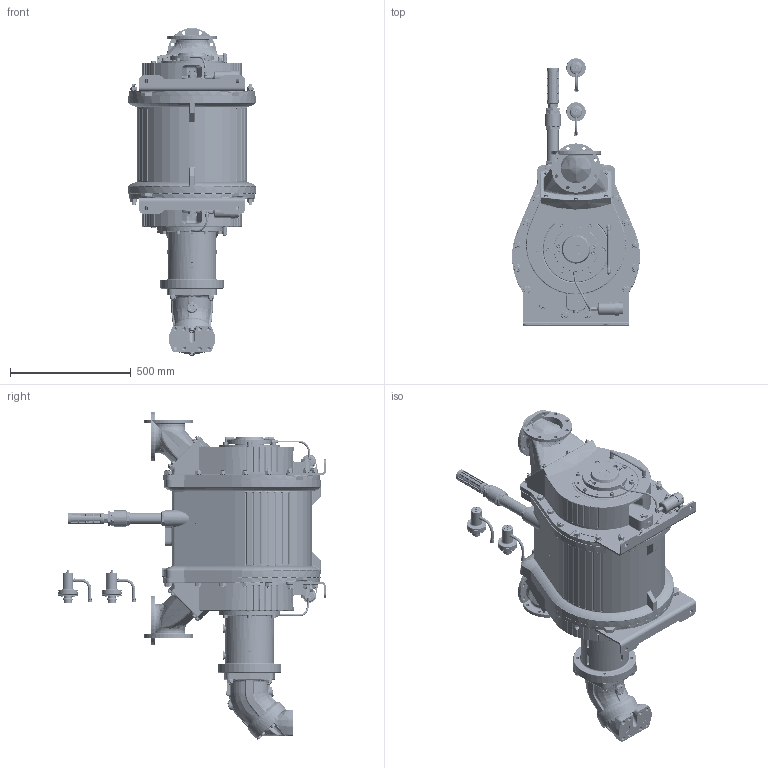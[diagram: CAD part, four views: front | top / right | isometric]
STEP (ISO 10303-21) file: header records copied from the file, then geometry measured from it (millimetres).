
FILE_DESCRIPTION(/* description */ (''),/* implementation_level */ '2;1');
FILE_NAME(/* name */ '1700167.stp',/* time_stamp */ '2026-04-22T12:55:37+02:00',/* author */ ('JJ'),/* organization */ (''),/* preprocessor_version */ 'ST-DEVELOPER v20',/* originating_system */ 'Autodesk Inventor 2025',/* authorisation */ '');
FILE_SCHEMA (('AUTOMOTIVE_DESIGN { 1 0 10303 214 3 1 1 }'));
Products named in the file (69): 1700167; 1659021; 1659049; 910100170; 910200008; 1634823; 1634808; 922000270; 910100021; 910100161; 944600276; 1659046; 1659095; 915000217; 1634773; 915000215; 915000217_1; 915000232; 910300487; 910100191; 915000225; 915000225-part1; 915000225-part2; 944600240; 915000050; 1634824; 1634809; 922000269; 925000587; 925000590; 944600356; 944600355; 1659017; 1659069; 1634666; 1634667; 1634668; 1634130; 1634131; 1634670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
Assembly tree (200 placements, depth 4):
  1700167
    1659017  x4
    1659069  x4
    1659021  x2
    910100021  x34
    910100161  x34
    910100170  x12
    910200008  x12
    1634823  x2
      1634808
      922000270
    1634826  x2
      1634811
      922000266
    1659049  x2
    944600276  x4
    1659046  x2
    1634824  x2
      1634809
      922000269
    1659095
    910300487  x2
    910100191  x2
    944600240  x2
    915000232  x2
    915000225  x2
      915000225-part1
      915000225-part2
    915000217
    1634773  x2
    915000215  x2
    915000217_1
    915000050
    925000587
    925000590
    944600356
    944600355
    1634666  x2
      1634667
      1634668
      1634130
      1634131
      1634670
      1634134
      910200105
      910100125
      910300428
      921000047
      922100045
      922100339
      1634669
      925000651
      910300012
    925000862  x2
    927000134-TM2500  x2
    1659079_Simplify_body
    1636087
      1636088
      922000307
    1659105
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Bounding box: 529.22 x 1107.24 x 1357.57 mm (x, y, z)
Volume: 158594263.6 mm3; surface area: 7045928.4 mm2
Topology: 220 solids, 238 shells, 12529 faces, 32253 edges, 20729 vertices
Faces by surface type: plane 4570, bspline 3546, cylinder 2702, cone 1061, torus 459, sphere 191
Full cylindrical faces by diameter (mm): 1.5 x16, 3 x2, 3.2 x4, 3.3 x4, 3.5 x2, 4 x6, 4.134 x4, 4.917 x2, 4.92 x10, 5 x2, 5.3 x2, 6 x48, 6.1 x2, 6.4 x2, 6.5 x8, 8 x38, 8.376 x14, 8.4 x2, 8.5 x3, 8.57 x2, 9.2 x2, 9.7 x2, 9.8 x4, 10 x190, 10.106 x9, 10.5 x12, 11 x63, 11.18 x2, 11.3 x4, 11.445 x2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
Entity records: 649608 total; most frequent: CARTESIAN_POINT 468811, ORIENTED_EDGE 39574, DIRECTION 30046, EDGE_CURVE 19787, VERTEX_POINT 12682, AXIS2_PLACEMENT_3D 11111, EDGE_LOOP 8683, LINE 7824
